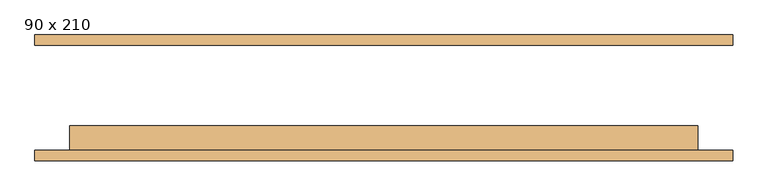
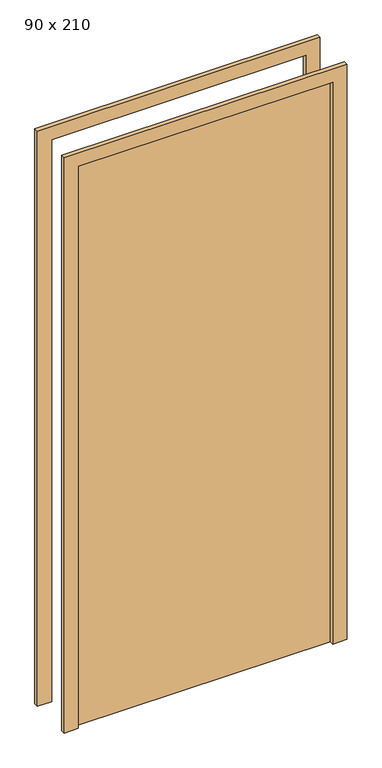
"""IFC4 building model written with IfcOpenShell, lengths in millimetres: door geometry, M_Descarga simples : 90 x 210."""

from ifc_helpers import new_model, si_unit, frame, origin, origin_with_axes, place, context, project, spatial, polyline, outline, extrude, source, transform, mapped, element, save


def door_90_x_210_565370b3(model_context):
    return source(origin(), model_context, "Body", "SweptSolid", [
        extrude(outline(polyline([(2150.0, -500.0), (0.0, -500.0), (0.0, -450.0), (2100.0, -450.0), (2100.0, 450.0), (0.0, 450.0), (0.0, 500.0), (2150.0, 500.0), (2150.0, -500.0)])), frame((0.0, -90.0, 0.0), z_axis=(0.0, 1.0, 0.0), x_axis=(0.0, 0.0, 1.0)), (0.0, 0.0, 1.0), 15.0),
        extrude(outline(polyline([(2150.0, 500.0), (2150.0, -500.0), (0.0, -500.0), (0.0, -450.0), (2100.0, -450.0), (2100.0, 450.0), (0.0, 450.0), (0.0, 500.0), (2150.0, 500.0)])), frame((0.0, 75.0, 0.0), z_axis=(0.0, 1.0, 0.0), x_axis=(0.0, 0.0, 1.0)), (0.0, 0.0, 1.0), 15.0),
        extrude(outline(polyline([(450.0, -40.0), (450.0, -75.0), (-450.0, -75.0), (-450.0, -40.0), (450.0, -40.0)])), origin_with_axes(), (0.0, 0.0, 1.0), 2100.0),
    ])


if __name__ == "__main__":
    model = new_model("IFC4")
    model_context = context("Model", 3, world=origin())
    ifc_project = project(units=[si_unit("LENGTHUNIT", "METRE", prefix="MILLI")], contexts=[model_context])
    site = spatial("IfcSite", under=ifc_project)
    building = spatial("IfcBuilding", under=site)
    placement = place(None, origin())
    door_90_x_210_shape = door_90_x_210_565370b3(model_context)
    element("IfcDoor", 1, ObjectType="M_Descarga simples : 90 x 210", at=placement, inside=building, context=model_context, shape_type="MappedRepresentation", body=[
        mapped(door_90_x_210_shape, transform((0.0, 0.0, 0.0), x_axis=(1.0, 0.0, 0.0), y_axis=(0.0, 1.0, 0.0), z_axis=(0.0, 0.0, 1.0))),
    ])
    save(model, "model.ifc")
